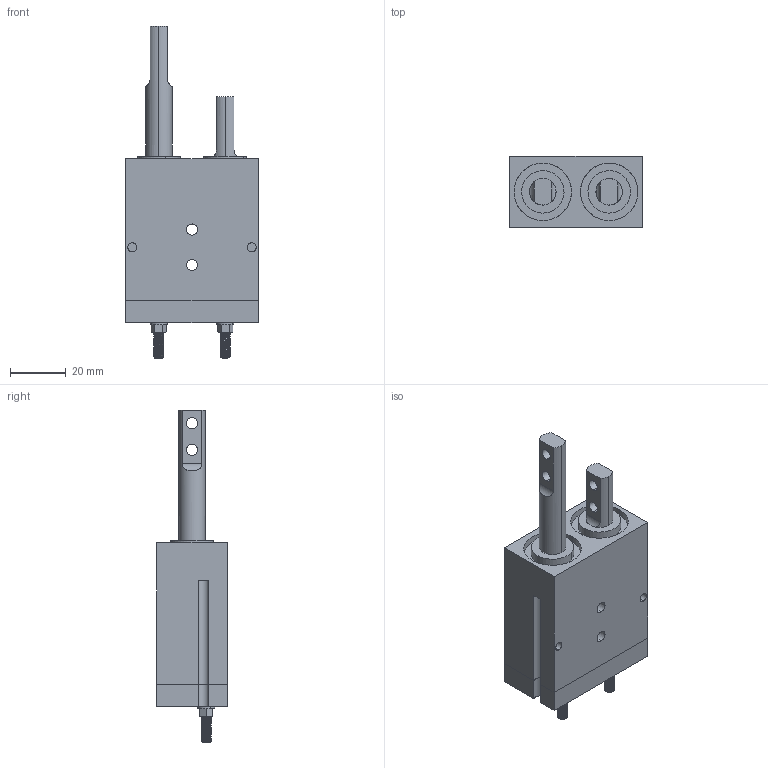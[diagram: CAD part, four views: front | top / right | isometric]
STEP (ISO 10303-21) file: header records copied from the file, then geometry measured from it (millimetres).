
FILE_DESCRIPTION (( 'STEP AP203' ), '1' );
FILE_NAME ('AGE-1 in IN.STEP', '2014-11-19T14:55:42', ( 'setup' ), ( '' ), 'SwSTEP 2.0', 'SolidWorks 2013', '' );
FILE_SCHEMA (( 'CONFIG_CONTROL_DESIGN' ));
Length unit declared in the file: inch
Products named in the file (7): 91375A153_91375A153; AGE-1 NUT_95307A200; AGE-1 in IN; age-1001; age-1003; age-1004; age-1002
Assembly tree (10 placements, depth 2):
  AGE-1 in IN
    age-1001
    age-1003  x2
    age-1004  x2
    age-1002
    91375A153_91375A153  x2
    AGE-1 NUT_95307A200  x2
Bounding box: 47.62 x 25.4 x 119.08 mm (x, y, z)
Volume: 65308.3 mm3; surface area: 30270.8 mm2
Topology: 10 solids, 10 shells, 787 faces, 1701 edges, 940 vertices
Faces by surface type: cylinder 366, cone 304, plane 87, bspline 30
Entity records: 17845 total; most frequent: CARTESIAN_POINT 7680, DIRECTION 1923, ORIENTED_EDGE 1912, EDGE_CURVE 956, AXIS2_PLACEMENT_3D 746, VERTEX_POINT 545, EDGE_LOOP 491, ADVANCED_FACE 441
